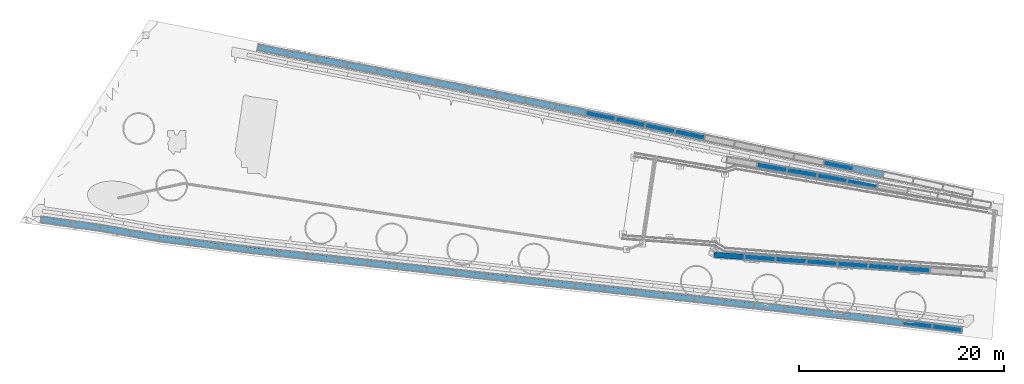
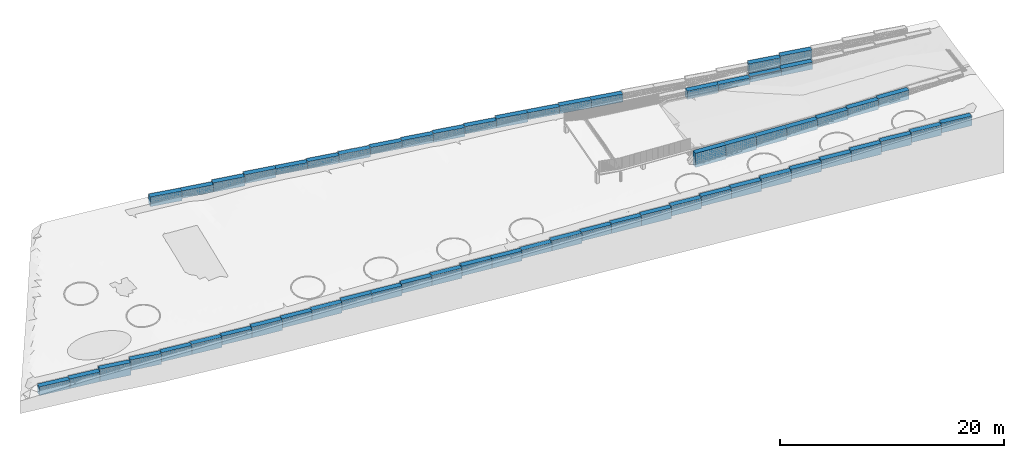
# Not in any storey, part 6 of 45: 59 walls.
"""IFC4 model written with IfcOpenShell, lengths in metres."""

import ifcopenshell
import ifcopenshell.guid

model = None  # the IFC model being written
_history = None  # IfcOwnerHistory: only IFC2X3 demands one
_inside = {}  # id of a spatial element -> (the spatial element, [elements in it])
_under = {}  # id of a project, library or spatial element -> (it, [spatial elements below it])
_declared = {}  # id of a project -> (the project, [libraries it declares])
_typed = {}  # id of a type object -> (the type object, [elements of that type])
_made_of = {}  # id of a material, layer set ... -> (it, [elements and type objects made of it])


def new_model(schema):
    """Start an empty IFC model of exactly this schema.

    Asked for "IFC4X3", IfcOpenShell would pick the latest addendum, in which some entities
    have other attributes; the version numbers below select the first issue.
    IFC2X3 requires an IfcOwnerHistory on every rooted entity: one is made here for all.
    """
    global model, _history
    if schema == "IFC4X3":
        model = ifcopenshell.file(schema_version=(4, 3, 0, 0))
    else:
        model = ifcopenshell.file(schema=schema)
    _inside.clear()
    _under.clear()
    _declared.clear()
    _typed.clear()
    _made_of.clear()
    _history = None
    if model.schema == "IFC2X3":
        org = make("IfcOrganization", Name="unknown")
        user = make(
            "IfcPersonAndOrganization",
            ThePerson=make("IfcPerson", FamilyName="unknown"),
            TheOrganization=org,
        )
        app = make(
            "IfcApplication",
            ApplicationDeveloper=org,
            Version="unknown",
            ApplicationFullName="unknown",
            ApplicationIdentifier="unknown",
        )
        _history = make(
            "IfcOwnerHistory",
            OwningUser=user,
            OwningApplication=app,
            ChangeAction="ADDED",
            CreationDate=0,
        )
    return model


def make(cls, **values):
    """One entity of the class cls with the attributes given. An attribute that is None is left unset."""
    return model.create_entity(
        cls, **{name: value for name, value in values.items() if value is not None}
    )


def rooted(cls, **values):
    """An entity with a GlobalId (a new one), such as an element, a storey or a relation."""
    return make(cls, GlobalId=ifcopenshell.guid.new(), OwnerHistory=_history, **values)


def si_unit(unit_type, name, prefix=None):
    """IfcSIUnit, for example si_unit("LENGTHUNIT", "METRE", prefix="MILLI")."""
    return make("IfcSIUnit", UnitType=unit_type, Prefix=prefix, Name=name)


def assignment(units):
    """IfcUnitAssignment: the units of a project."""
    return None if units is None else make("IfcUnitAssignment", Units=units)


def point(xyz):
    """IfcCartesianPoint."""
    return None if xyz is None else make("IfcCartesianPoint", Coordinates=xyz)


def direction(xyz):
    """IfcDirection."""
    return None if xyz is None else make("IfcDirection", DirectionRatios=xyz)


def frame(location, z_axis=None, x_axis=None):
    """IfcAxis2Placement3D, a coordinate frame: its origin and axes. An axis left out is left unset."""
    return make(
        "IfcAxis2Placement3D",
        Location=point(location),
        Axis=direction(z_axis),
        RefDirection=direction(x_axis),
    )


def origin_with_axes():
    """The frame at (0, 0, 0) with the z axis (0, 0, 1) and the x axis (1, 0, 0) written out."""
    return frame((0.0, 0.0, 0.0), z_axis=(0.0, 0.0, 1.0), x_axis=(1.0, 0.0, 0.0))


def place(relative_to, where):
    """IfcLocalPlacement: puts the frame where relative to a parent placement (None: the world)."""
    return make(
        "IfcLocalPlacement", PlacementRelTo=relative_to, RelativePlacement=where
    )


def context(
    kind, dimensions, precision=None, world=None, true_north=None, identifier=None
):
    """IfcGeometricRepresentationContext, for example the 3D "Model" context."""
    return make(
        "IfcGeometricRepresentationContext",
        ContextIdentifier=identifier,
        ContextType=kind,
        CoordinateSpaceDimension=dimensions,
        Precision=precision,
        WorldCoordinateSystem=world,
        TrueNorth=true_north,
    )


def subcontext(parent, identifier, kind, view, scale=None):
    """IfcGeometricRepresentationSubContext, for example "Body" below "Model"."""
    return make(
        "IfcGeometricRepresentationSubContext",
        ContextIdentifier=identifier,
        ContextType=kind,
        ParentContext=parent,
        TargetScale=scale,
        TargetView=view,
    )


def project(units=None, contexts=None):
    """IfcProject with its units and contexts."""
    return rooted(
        "IfcProject",
        Name="project",
        RepresentationContexts=contexts,
        UnitsInContext=assignment(units),
    )


def spatial(cls, under=None, at=None, **own):
    """A site, building, storey or space (cls), placed at a placement, below another one or the project."""
    s = rooted(cls, ObjectPlacement=at, **own)
    if under is not None:
        _under.setdefault(under.id(), (under, []))[1].append(s)
    return s


def polyline(points):
    """IfcPolyline through the points."""
    return make("IfcPolyline", Points=[point(p) for p in points])


def outline(outer, holes=None, kind="AREA"):
    """IfcArbitraryClosedProfileDef: a profile drawn as a closed curve; with holes, ...WithVoids."""
    if holes is None:
        return make("IfcArbitraryClosedProfileDef", ProfileType=kind, OuterCurve=outer)
    return make(
        "IfcArbitraryProfileDefWithVoids",
        ProfileType=kind,
        OuterCurve=outer,
        InnerCurves=holes,
    )


def extrude(swept, where, along, depth):
    """IfcExtrudedAreaSolid: the profile swept, set in the frame where, extruded along a direction by depth."""
    return make(
        "IfcExtrudedAreaSolid",
        SweptArea=swept,
        Position=where,
        ExtrudedDirection=direction(along),
        Depth=depth,
    )


def shape(context_of_items, identifier, shape_type, items):
    """IfcShapeRepresentation: the items that make up one representation, for example the "Body"."""
    return make(
        "IfcShapeRepresentation",
        ContextOfItems=context_of_items,
        RepresentationIdentifier=identifier,
        RepresentationType=shape_type,
        Items=items,
    )


def material(Name=None, Category=None):
    """IfcMaterial."""
    return make("IfcMaterial", Name=Name, Category=Category)


def made_of(thing, what):
    """Note that an element or type object is made of a material, layer set ...; save() writes the relation."""
    if what is not None:
        _made_of.setdefault(what.id(), (what, []))[1].append(thing)
    return thing


def element(
    cls,
    number,
    at=None,
    inside=None,
    cuts=None,
    type_object=None,
    material=None,
    context=None,
    identifier="Body",
    shape_type=None,
    held_by="IfcProductDefinitionShape",
    body=None,
    shapes=None,
    **own,
):
    """One element of the class cls, such as IfcWall. Its Tag is "e" and its number.

    at: its placement. inside: the storey or other place that contains it. cuts: it is an
    opening in that element (IfcRelVoidsElement). A single representation is given by context,
    identifier, shape_type and body (its items); several are given by shapes. held_by: the class
    of the entity that holds the representations. save() writes the other relations.
    """
    e = rooted(cls, Tag="e%d" % number, ObjectPlacement=at, **own)
    if body is not None:
        shapes = [shape(context, identifier, shape_type, body)]
    if shapes is not None:
        e.Representation = make(held_by, Representations=shapes)
    if inside is not None:
        _inside.setdefault(inside.id(), (inside, []))[1].append(e)
    if cuts is not None:
        rooted(
            "IfcRelVoidsElement", RelatingBuildingElement=cuts, RelatedOpeningElement=e
        )
    if type_object is not None:
        _typed.setdefault(type_object.id(), (type_object, []))[1].append(e)
    return made_of(e, material)


def aggregate(whole, parts):
    """IfcRelAggregates: a whole, such as a stair, and the parts it consists of."""
    return rooted("IfcRelAggregates", RelatingObject=whole, RelatedObjects=parts)


def save(model, path):
    """Write the relations noted so far, then the file.

    IfcRelAggregates (storeys below a building ...), IfcRelContainedInSpatialStructure (elements
    in a storey), IfcRelDefinesByType, IfcRelAssociatesMaterial and IfcRelDeclares: one each for
    every whole, place, type object, material and project.
    """
    for whole, parts in _under.values():
        aggregate(whole, parts)
    for where, things in _inside.values():
        rooted(
            "IfcRelContainedInSpatialStructure",
            RelatedElements=things,
            RelatingStructure=where,
        )
    for kind, things in _typed.values():
        rooted("IfcRelDefinesByType", RelatedObjects=things, RelatingType=kind)
    for what, things in _made_of.values():
        rooted("IfcRelAssociatesMaterial", RelatedObjects=things, RelatingMaterial=what)
    for by, libraries in _declared.values():
        rooted("IfcRelDeclares", RelatingContext=by, RelatedDefinitions=libraries)
    model.write(path)


model = new_model("IFC4")

# Units and contexts
model_context = context("Model", 3, precision=1e-05, world=origin_with_axes(), true_north=direction((0.0, 1.0)))
body_context = subcontext(model_context, "Body", "Model", "MODEL_VIEW")
ifc_project = project(units=[si_unit("VOLUMEUNIT", "CUBIC_METRE"), si_unit("LENGTHUNIT", "METRE"), si_unit("AREAUNIT", "SQUARE_METRE")], contexts=[model_context])

# Site
site_placement = place(None, origin_with_axes())
site = spatial("IfcSite", under=ifc_project, at=site_placement, Name="Lares · Rua das Mercês · artigo 4771")

# Walls
ifc_material = material(Name="Gabião · enchimento", Category="stone")
wall_1_placement = place(site_placement, frame((0.0, 0.0, 14.208446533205), z_axis=(0.0, 0.0, 1.0), x_axis=(1.0, -1.03767253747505e-17, 0.0)))
element("IfcWall", 1, at=wall_1_placement, inside=site, material=ifc_material, Name="Acesso · gabião -1 9.0 · núcleo de pedra", ObjectType="Acesso · gabião -1 9.0 · núcleo de pedra", PredefinedType="USERDEFINED", context=body_context, shape_type="SweptSolid", body=[
    extrude(outline(polyline([(58.5989442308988, 1.76800126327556), (58.560050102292, 1.23943031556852), (55.5438028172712, 1.46137650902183), (55.582696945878, 1.98994745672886), (58.5989442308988, 1.76800126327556)])), origin_with_axes(), (0.0, 0.0, 1.0), 1.52155346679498),
])
wall_2_placement = place(site_placement, frame((0.0, 0.0, 14.3332508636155), z_axis=(0.0, 0.0, 1.0), x_axis=(1.0, -1.03767253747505e-17, 0.0)))
element("IfcWall", 2, at=wall_2_placement, inside=site, material=ifc_material, Name="Acesso · gabião -1 12.0 · núcleo de pedra", ObjectType="Acesso · gabião -1 12.0 · núcleo de pedra", PredefinedType="USERDEFINED", context=body_context, shape_type="SweptSolid", body=[
    extrude(outline(polyline([(61.615470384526, 1.54603259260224), (61.5765759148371, 1.01746166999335), (58.5600499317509, 1.23943032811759), (58.5989444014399, 1.76800125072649), (61.615470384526, 1.54603259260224)])), origin_with_axes(), (0.0, 0.0, 1.0), 1.39974913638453),
])
wall_3_placement = place(site_placement, frame((0.0, 0.0, 14.5072433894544), z_axis=(0.0, 0.0, 1.0), x_axis=(1.0, -1.03767253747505e-17, 0.0)))
element("IfcWall", 3, at=wall_3_placement, inside=site, material=ifc_material, Name="Acesso · gabião -1 15.0 · núcleo de pedra", ObjectType="Acesso · gabião -1 15.0 · núcleo de pedra", PredefinedType="USERDEFINED", context=body_context, shape_type="SweptSolid", body=[
    extrude(outline(polyline([(64.6323114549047, 1.32404065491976), (64.5934169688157, 0.795469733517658), (61.576575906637, 1.01746167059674), (61.6154703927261, 1.54603259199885), (64.6323114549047, 1.32404065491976)])), origin_with_axes(), (0.0, 0.0, 1.0), 1.22875661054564),
])
wall_4_placement = place(site_placement, frame((0.0, 0.0, 14.6824201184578), z_axis=(0.0, 0.0, 1.0), x_axis=(1.0, -1.03767253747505e-17, 0.0)))
element("IfcWall", 4, at=wall_4_placement, inside=site, material=ifc_material, Name="Acesso · gabião -1 18.0 · núcleo de pedra", ObjectType="Acesso · gabião -1 18.0 · núcleo de pedra", PredefinedType="USERDEFINED", context=body_context, shape_type="SweptSolid", body=[
    extrude(outline(polyline([(67.6495103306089, 1.10202489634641), (67.6106162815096, 0.573453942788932), (64.5934171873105, 0.795469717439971), (64.6323112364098, 1.32404067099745), (67.6495103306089, 1.10202489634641)])), origin_with_axes(), (0.0, 0.0, 1.0), 1.05657988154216),
])
wall_5_placement = place(site_placement, frame((0.0, 0.0, 14.857617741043), z_axis=(0.0, 0.0, 1.0), x_axis=(1.0, -1.03767253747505e-17, 0.0)))
element("IfcWall", 5, at=wall_5_placement, inside=site, material=ifc_material, Name="Acesso · gabião -1 21.0 · núcleo de pedra", ObjectType="Acesso · gabião -1 21.0 · núcleo de pedra", PredefinedType="USERDEFINED", context=body_context, shape_type="SweptSolid", body=[
    extrude(outline(polyline([(70.6671179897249, 0.879985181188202), (70.6282250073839, 0.3514141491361), (67.6106168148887, 0.57345390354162), (67.6495097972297, 1.10202493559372), (70.6671179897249, 0.879985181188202)])), origin_with_axes(), (0.0, 0.0, 1.0), 1.00327284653),
])
wall_6_placement = place(site_placement, frame((0.0, 0.0, 15.0113961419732), z_axis=(0.0, 0.0, 1.0), x_axis=(1.0, -1.03767253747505e-17, 0.0)))
element("IfcWall", 6, at=wall_6_placement, inside=site, material=ifc_material, Name="Acesso · gabião -1 24.0 · núcleo de pedra", ObjectType="Acesso · gabião -1 24.0 · núcleo de pedra", PredefinedType="USERDEFINED", context=body_context, shape_type="SweptSolid", body=[
    extrude(outline(polyline([(73.6851954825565, 0.657922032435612), (73.6463044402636, 0.129350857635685), (70.628225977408, 0.351414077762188), (70.6671170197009, 0.879985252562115), (73.6851954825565, 0.657922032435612)])), origin_with_axes(), (0.0, 0.0, 1.0), 1.00195340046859),
])
wall_7_placement = place(site_placement, frame((0.0, 0.0, 15.2015590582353), z_axis=(0.0, 0.0, 1.0), x_axis=(1.0, -1.03767253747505e-17, 0.0)))
element("IfcWall", 7, at=wall_7_placement, inside=site, material=ifc_material, Name="Acesso · gabião -1 27.0 · núcleo de pedra", ObjectType="Acesso · gabião -1 27.0 · núcleo de pedra", PredefinedType="USERDEFINED", context=body_context, shape_type="SweptSolid", body=[
    extrude(outline(polyline([(76.7038165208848, 0.435836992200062), (76.6649286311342, -0.0927344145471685), (73.6463060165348, 0.129350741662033), (73.6851939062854, 0.657922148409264), (76.7038165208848, 0.435836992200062)])), origin_with_axes(), (0.0, 0.0, 1.0), 0.972611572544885),
])
wall_8_placement = place(site_placement, frame((0.0, 0.0, 14.8446376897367), z_axis=(0.0, 0.0, 1.0), x_axis=(1.0, -1.03767253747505e-17, 0.0)))
element("IfcWall", 8, at=wall_8_placement, inside=site, material=ifc_material, Name="Acesso · gabião 1 12.0 · núcleo de pedra", ObjectType="Acesso · gabião 1 12.0 · núcleo de pedra", PredefinedType="USERDEFINED", context=body_context, shape_type="SweptSolid", body=[
    extrude(outline(polyline([(62.7702319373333, 10.2266251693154), (62.6794950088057, 9.70445009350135), (59.7409139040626, 10.2150792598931), (59.8316508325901, 10.7372543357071), (62.7702319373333, 10.2266251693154)])), origin_with_axes(), (0.0, 0.0, 1.0), 0.888362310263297),
])
wall_9_placement = place(site_placement, frame((0.0, 0.0, 15.0670829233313), z_axis=(0.0, 0.0, 1.0), x_axis=(1.0, -1.03767253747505e-17, 0.0)))
element("IfcWall", 9, at=wall_9_placement, inside=site, material=ifc_material, Name="Acesso · gabião 1 15.0 · núcleo de pedra", ObjectType="Acesso · gabião 1 15.0 · núcleo de pedra", PredefinedType="USERDEFINED", context=body_context, shape_type="SweptSolid", body=[
    extrude(outline(polyline([(65.708500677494, 9.71601881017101), (65.6177583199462, 9.193844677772), (62.6794922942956, 9.70445056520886), (62.7702346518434, 10.2266246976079), (65.708500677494, 9.71601881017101)])), origin_with_axes(), (0.0, 0.0, 1.0), 0.670337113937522),
])
wall_10_placement = place(site_placement, frame((0.0, 0.0, 15.266), z_axis=(0.0, 0.0, 1.0), x_axis=(1.0, -1.03767253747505e-17, 0.0)))
element("IfcWall", 10, at=wall_10_placement, inside=site, material=ifc_material, Name="Acesso · gabião 1 18.0 · núcleo de pedra", ObjectType="Acesso · gabião 1 18.0 · núcleo de pedra", PredefinedType="USERDEFINED", context=body_context, shape_type="SweptSolid", body=[
    extrude(outline(polyline([(68.6464119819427, 9.20543618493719), (68.555663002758, 8.68326320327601), (65.6177550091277, 9.19384525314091), (65.7085039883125, 9.71601823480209), (68.6464119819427, 9.20543618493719)])), origin_with_axes(), (0.0, 0.0, 1.0), 0.598170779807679),
])
wall_11_placement = place(site_placement, frame((0.0, 0.0, 15.269), z_axis=(0.0, 0.0, 1.0), x_axis=(1.0, -1.03767253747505e-17, 0.0)))
element("IfcWall", 11, at=wall_11_placement, inside=site, material=ifc_material, Name="Acesso · gabião 1 21.0 · núcleo de pedra", ObjectType="Acesso · gabião 1 21.0 · núcleo de pedra", PredefinedType="USERDEFINED", context=body_context, shape_type="SweptSolid", body=[
    extrude(outline(polyline([(71.5839149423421, 8.69487740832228), (71.4931578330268, 8.17270583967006), (68.5556589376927, 8.68326390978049), (68.6464160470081, 9.20543547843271), (71.5839149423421, 8.69487740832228)])), origin_with_axes(), (0.0, 0.0, 1.0), 0.763511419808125),
])
wall_12_placement = place(site_placement, frame((0.0, 0.0, 13.25), z_axis=(0.0, 0.0, 1.0), x_axis=(1.0, -1.03767253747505e-17, 0.0)))
element("IfcWall", 12, at=wall_12_placement, inside=site, material=ifc_material, Name="Limite north · gabião 4 · núcleo de pedra", ObjectType="Limite north · gabião 4 · núcleo de pedra", PredefinedType="USERDEFINED", context=body_context, shape_type="SweptSolid", body=[
    extrude(outline(polyline([(13.9459810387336, 21.6283738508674), (14.0549092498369, 21.6074246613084), (13.954813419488, 21.0869625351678), (13.8442172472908, 21.1082325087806), (13.8408855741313, 21.1088954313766), (11.0468891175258, 21.6834743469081), (11.1536482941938, 22.2026106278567), (13.9459810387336, 21.6283738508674)])), origin_with_axes(), (0.0, 0.0, 1.0), 1.05),
])
wall_13_placement = place(site_placement, frame((0.0, 0.0, 13.5), z_axis=(0.0, 0.0, 1.0), x_axis=(1.0, -1.03767253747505e-17, 0.0)))
element("IfcWall", 13, at=wall_13_placement, inside=site, material=ifc_material, Name="Limite north · gabião 5 · núcleo de pedra", ObjectType="Limite north · gabião 5 · núcleo de pedra", PredefinedType="USERDEFINED", context=body_context, shape_type="SweptSolid", body=[
    extrude(outline(polyline([(16.9666375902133, 21.0474379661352), (16.8665417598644, 20.5269758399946), (13.954813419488, 21.0869625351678), (14.0549092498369, 21.6074246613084), (16.9666375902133, 21.0474379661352)])), origin_with_axes(), (0.0, 0.0, 1.0), 0.800000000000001),
])
wall_14_placement = place(site_placement, frame((0.0, 0.0, 13.5), z_axis=(0.0, 0.0, 1.0), x_axis=(1.0, -1.03767253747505e-17, 0.0)))
element("IfcWall", 14, at=wall_14_placement, inside=site, material=ifc_material, Name="Limite north · gabião 6 · núcleo de pedra", ObjectType="Limite north · gabião 6 · núcleo de pedra", PredefinedType="USERDEFINED", context=body_context, shape_type="SweptSolid", body=[
    extrude(outline(polyline([(19.8783659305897, 20.487451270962), (19.7782701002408, 19.9669891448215), (16.8665417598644, 20.5269758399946), (16.9666375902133, 21.0474379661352), (19.8783659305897, 20.487451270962)])), origin_with_axes(), (0.0, 0.0, 1.0), 1.0),
])
wall_15_placement = place(site_placement, frame((0.0, 0.0, 13.75), z_axis=(0.0, 0.0, 1.0), x_axis=(1.0, -1.03767253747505e-17, 0.0)))
element("IfcWall", 15, at=wall_15_placement, inside=site, material=ifc_material, Name="Limite north · gabião 7 · núcleo de pedra", ObjectType="Limite north · gabião 7 · núcleo de pedra", PredefinedType="USERDEFINED", context=body_context, shape_type="SweptSolid", body=[
    extrude(outline(polyline([(21.9983013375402, 20.0797430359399), (22.0008751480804, 20.0792348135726), (22.7911217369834, 19.9191251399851), (22.6858782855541, 19.3996794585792), (21.896917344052, 19.5595286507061), (19.7782701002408, 19.9669891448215), (19.8783659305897, 20.487451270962), (21.9983013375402, 20.0797430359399)])), origin_with_axes(), (0.0, 0.0, 1.0), 0.950000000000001),
])
wall_16_placement = place(site_placement, frame((0.0, 0.0, 14.0), z_axis=(0.0, 0.0, 1.0), x_axis=(1.0, -1.03767253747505e-17, 0.0)))
element("IfcWall", 16, at=wall_16_placement, inside=site, material=ifc_material, Name="Limite north · gabião 8 · núcleo de pedra", ObjectType="Limite north · gabião 8 · núcleo de pedra", PredefinedType="USERDEFINED", context=body_context, shape_type="SweptSolid", body=[
    extrude(outline(polyline([(25.6971635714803, 19.3303400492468), (25.5919201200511, 18.8108943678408), (22.6858782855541, 19.3996794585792), (22.7911217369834, 19.9191251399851), (25.6971635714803, 19.3303400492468)])), origin_with_axes(), (0.0, 0.0, 1.0), 0.700000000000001),
])
wall_17_placement = place(site_placement, frame((0.0, 0.0, 14.0), z_axis=(0.0, 0.0, 1.0), x_axis=(1.0, -1.03767253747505e-17, 0.0)))
element("IfcWall", 17, at=wall_17_placement, inside=site, material=ifc_material, Name="Limite north · gabião 9 · núcleo de pedra", ObjectType="Limite north · gabião 9 · núcleo de pedra", PredefinedType="USERDEFINED", context=body_context, shape_type="SweptSolid", body=[
    extrude(outline(polyline([(27.7595237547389, 18.9124909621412), (28.6029361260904, 18.7442291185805), (28.49924383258, 18.2244715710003), (27.6554435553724, 18.392810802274), (27.6546679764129, 18.3929667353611), (25.5919201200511, 18.8108943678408), (25.6971635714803, 19.3303400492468), (27.7595237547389, 18.9124909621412)])), origin_with_axes(), (0.0, 0.0, 1.0), 0.800000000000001),
])
wall_18_placement = place(site_placement, frame((0.0, 0.0, 14.0), z_axis=(0.0, 0.0, 1.0), x_axis=(1.0, -1.03767253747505e-17, 0.0)))
element("IfcWall", 18, at=wall_18_placement, inside=site, material=ifc_material, Name="Limite north · gabião 10 · núcleo de pedra", ObjectType="Limite north · gabião 10 · núcleo de pedra", PredefinedType="USERDEFINED", context=body_context, shape_type="SweptSolid", body=[
    extrude(outline(polyline([(31.5107226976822, 18.1641219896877), (31.4070304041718, 17.6443644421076), (28.49924383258, 18.2244715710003), (28.6029361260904, 18.7442291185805), (31.5107226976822, 18.1641219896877)])), origin_with_axes(), (0.0, 0.0, 1.0), 0.9),
])
wall_19_placement = place(site_placement, frame((0.0, 0.0, 14.25), z_axis=(0.0, 0.0, 1.0), x_axis=(1.0, -1.03767253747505e-17, 0.0)))
element("IfcWall", 19, at=wall_19_placement, inside=site, material=ifc_material, Name="Limite north · gabião 11 · núcleo de pedra", ObjectType="Limite north · gabião 11 · núcleo de pedra", PredefinedType="USERDEFINED", context=body_context, shape_type="SweptSolid", body=[
    extrude(outline(polyline([(34.418509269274, 17.584014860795), (34.3148169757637, 17.0642573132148), (31.4070304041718, 17.6443644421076), (31.5107226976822, 18.1641219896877), (34.418509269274, 17.584014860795)])), origin_with_axes(), (0.0, 0.0, 1.0), 0.75),
])
wall_20_placement = place(site_placement, frame((0.0, 0.0, 14.25), z_axis=(0.0, 0.0, 1.0), x_axis=(1.0, -1.03767253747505e-17, 0.0)))
element("IfcWall", 20, at=wall_20_placement, inside=site, material=ifc_material, Name="Limite north · gabião 12 · núcleo de pedra", ObjectType="Limite north · gabião 12 · núcleo de pedra", PredefinedType="USERDEFINED", context=body_context, shape_type="SweptSolid", body=[
    extrude(outline(polyline([(36.5810808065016, 17.1525790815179), (36.5823908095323, 17.152314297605), (37.326846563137, 16.9998864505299), (37.2205342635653, 16.4806584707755), (36.476733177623, 16.6329522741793), (34.3148169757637, 17.0642573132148), (34.418509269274, 17.584014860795), (36.5810808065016, 17.1525790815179)])), origin_with_axes(), (0.0, 0.0, 1.0), 0.850000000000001),
])
wall_21_placement = place(site_placement, frame((0.0, 0.0, 14.25), z_axis=(0.0, 0.0, 1.0), x_axis=(1.0, -1.03767253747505e-17, 0.0)))
element("IfcWall", 21, at=wall_21_placement, inside=site, material=ifc_material, Name="Limite north · gabião 13 · núcleo de pedra", ObjectType="Limite north · gabião 13 · núcleo de pedra", PredefinedType="USERDEFINED", context=body_context, shape_type="SweptSolid", body=[
    extrude(outline(polyline([(40.2316704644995, 16.4051216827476), (40.1253581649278, 15.8858937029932), (37.2205342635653, 16.4806584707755), (37.326846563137, 16.9998864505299), (40.2316704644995, 16.4051216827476)])), origin_with_axes(), (0.0, 0.0, 1.0), 0.950000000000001),
])
wall_22_placement = place(site_placement, frame((0.0, 0.0, 14.5), z_axis=(0.0, 0.0, 1.0), x_axis=(1.0, -1.03767253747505e-17, 0.0)))
element("IfcWall", 22, at=wall_22_placement, inside=site, material=ifc_material, Name="Limite north · gabião 14 · núcleo de pedra", ObjectType="Limite north · gabião 14 · núcleo de pedra", PredefinedType="USERDEFINED", context=body_context, shape_type="SweptSolid", body=[
    extrude(outline(polyline([(43.136494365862, 15.8103569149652), (43.0301820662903, 15.2911289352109), (40.1253581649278, 15.8858937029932), (40.2316704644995, 16.4051216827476), (43.136494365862, 15.8103569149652)])), origin_with_axes(), (0.0, 0.0, 1.0), 0.800000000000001),
])
wall_23_placement = place(site_placement, frame((0.0, 0.0, 14.5), z_axis=(0.0, 0.0, 1.0), x_axis=(1.0, -1.03767253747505e-17, 0.0)))
element("IfcWall", 23, at=wall_23_placement, inside=site, material=ifc_material, Name="Limite north · gabião 15 · núcleo de pedra", ObjectType="Limite north · gabião 15 · núcleo de pedra", PredefinedType="USERDEFINED", context=body_context, shape_type="SweptSolid", body=[
    extrude(outline(polyline([(46.0413182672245, 15.2155921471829), (45.9350059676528, 14.6963641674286), (43.0301820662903, 15.2911289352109), (43.136494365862, 15.8103569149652), (46.0413182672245, 15.2155921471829)])), origin_with_axes(), (0.0, 0.0, 1.0), 1.0),
])
wall_24_placement = place(site_placement, frame((0.0, 0.0, 14.75), z_axis=(0.0, 0.0, 1.0), x_axis=(1.0, -1.03767253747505e-17, 0.0)))
element("IfcWall", 24, at=wall_24_placement, inside=site, material=ifc_material, Name="Limite north · gabião 16 · núcleo de pedra", ObjectType="Limite north · gabião 16 · núcleo de pedra", PredefinedType="USERDEFINED", context=body_context, shape_type="SweptSolid", body=[
    extrude(outline(polyline([(46.0688101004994, 15.2099631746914), (46.0700833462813, 15.2096992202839), (48.9444899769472, 14.6064518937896), (48.8356311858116, 14.0877518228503), (45.9618608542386, 14.6908656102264), (45.9350059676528, 14.6963641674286), (46.0413182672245, 15.2155921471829), (46.0688101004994, 15.2099631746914)])), origin_with_axes(), (0.0, 0.0, 1.0), 0.75),
])
wall_25_placement = place(site_placement, frame((0.0, 0.0, 14.75), z_axis=(0.0, 0.0, 1.0), x_axis=(1.0, -1.03767253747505e-17, 0.0)))
element("IfcWall", 25, at=wall_25_placement, inside=site, material=ifc_material, Name="Limite north · gabião 17 · núcleo de pedra", ObjectType="Limite north · gabião 17 · núcleo de pedra", PredefinedType="USERDEFINED", context=body_context, shape_type="SweptSolid", body=[
    extrude(outline(polyline([(51.846360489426, 13.9974407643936), (51.7375016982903, 13.4787406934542), (48.8356311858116, 14.0877518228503), (48.9444899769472, 14.6064518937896), (51.846360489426, 13.9974407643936)])), origin_with_axes(), (0.0, 0.0, 1.0), 0.850000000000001),
])
wall_26_placement = place(site_placement, frame((0.0, 0.0, 14.75), z_axis=(0.0, 0.0, 1.0), x_axis=(1.0, -1.03767253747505e-17, 0.0)))
element("IfcWall", 26, at=wall_26_placement, inside=site, material=ifc_material, Name="Limite north · gabião 18 · núcleo de pedra", ObjectType="Limite north · gabião 18 · núcleo de pedra", PredefinedType="USERDEFINED", context=body_context, shape_type="SweptSolid", body=[
    extrude(outline(polyline([(54.7482310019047, 13.3884296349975), (54.6393722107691, 12.8697295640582), (51.7375016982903, 13.4787406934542), (51.846360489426, 13.9974407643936), (54.7482310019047, 13.3884296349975)])), origin_with_axes(), (0.0, 0.0, 1.0), 0.850000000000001),
])
wall_27_placement = place(site_placement, frame((0.0, 0.0, 15.25), z_axis=(0.0, 0.0, 1.0), x_axis=(1.0, -1.03767253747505e-17, 0.0)))
element("IfcWall", 27, at=wall_27_placement, inside=site, material=ifc_material, Name="Limite north · gabião 23 · núcleo de pedra", ObjectType="Limite north · gabião 23 · núcleo de pedra", PredefinedType="USERDEFINED", context=body_context, shape_type="SweptSolid", body=[
    extrude(outline(polyline([(69.2593457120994, 10.3625658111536), (69.1545580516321, 9.84302799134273), (66.2480007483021, 10.4292631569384), (66.3527884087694, 10.9488009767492), (69.2593457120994, 10.3625658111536)])), origin_with_axes(), (0.0, 0.0, 1.0), 1.05),
])
wall_28_placement = place(site_placement, frame((0.0, 0.0, 15.5), z_axis=(0.0, 0.0, 1.0), x_axis=(1.0, -1.03767253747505e-17, 0.0)))
element("IfcWall", 28, at=wall_28_placement, inside=site, material=ifc_material, Name="Limite north · gabião 24 · núcleo de pedra", ObjectType="Limite north · gabião 24 · núcleo de pedra", PredefinedType="USERDEFINED", context=body_context, shape_type="SweptSolid", body=[
    extrude(outline(polyline([(72.1659030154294, 9.77633064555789), (72.0611153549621, 9.25679282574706), (69.1545580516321, 9.84302799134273), (69.2593457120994, 10.3625658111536), (72.1659030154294, 9.77633064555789)])), origin_with_axes(), (0.0, 0.0, 1.0), 1.0),
])
wall_29_placement = place(site_placement, frame((0.0, 0.0, 10.25), z_axis=(0.0, 0.0, 1.0), x_axis=(1.0, -1.03767253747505e-17, 0.0)))
element("IfcWall", 29, at=wall_29_placement, inside=site, material=ifc_material, Name="Limite south · gabião 1 · núcleo de pedra", ObjectType="Limite south · gabião 1 · núcleo de pedra", PredefinedType="USERDEFINED", context=body_context, shape_type="SweptSolid", body=[
    extrude(outline(polyline([(-7.12131503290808, 5.00047159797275), (-7.19516742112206, 4.4756422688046), (-10.0859988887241, 4.88243128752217), (-10.0121465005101, 5.40726061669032), (-7.12131503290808, 5.00047159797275)])), origin_with_axes(), (0.0, 0.0, 1.0), 0.950000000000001),
])
wall_30_placement = place(site_placement, frame((0.0, 0.0, 10.25), z_axis=(0.0, 0.0, 1.0), x_axis=(1.0, -1.03767253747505e-17, 0.0)))
element("IfcWall", 30, at=wall_30_placement, inside=site, material=ifc_material, Name="Limite south · gabião 2 · núcleo de pedra", ObjectType="Limite south · gabião 2 · núcleo de pedra", PredefinedType="USERDEFINED", context=body_context, shape_type="SweptSolid", body=[
    extrude(outline(polyline([(-4.23048356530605, 4.59368257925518), (-4.30433595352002, 4.06885325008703), (-7.19516742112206, 4.4756422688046), (-7.12131503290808, 5.00047159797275), (-4.23048356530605, 4.59368257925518)])), origin_with_axes(), (0.0, 0.0, 1.0), 1.05),
])
wall_31_placement = place(site_placement, frame((0.0, 0.0, 10.25), z_axis=(0.0, 0.0, 1.0), x_axis=(1.0, -1.03767253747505e-17, 0.0)))
element("IfcWall", 31, at=wall_31_placement, inside=site, material=ifc_material, Name="Limite south · gabião 3 · núcleo de pedra", ObjectType="Limite south · gabião 3 · núcleo de pedra", PredefinedType="USERDEFINED", context=body_context, shape_type="SweptSolid", body=[
    extrude(outline(polyline([(-4.13330984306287, 4.58000858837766), (-4.12415688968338, 4.57855697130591), (-1.34595301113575, 4.08799990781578), (-1.43811130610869, 3.56607381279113), (-4.21175140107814, 4.0558250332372), (-4.30433595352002, 4.06885325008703), (-4.23048356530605, 4.59368257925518), (-4.13330984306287, 4.58000858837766)])), origin_with_axes(), (0.0, 0.0, 1.0), 1.35),
])
wall_32_placement = place(site_placement, frame((0.0, 0.0, 10.75), z_axis=(0.0, 0.0, 1.0), x_axis=(1.0, -1.03767253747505e-17, 0.0)))
element("IfcWall", 32, at=wall_32_placement, inside=site, material=ifc_material, Name="Limite south · gabião 4 · núcleo de pedra", ObjectType="Limite south · gabião 4 · núcleo de pedra", PredefinedType="USERDEFINED", context=body_context, shape_type="SweptSolid", body=[
    extrude(outline(polyline([(1.52888704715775, 3.58037945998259), (1.43672875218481, 3.05845336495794), (-1.43811130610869, 3.56607381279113), (-1.34595301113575, 4.08799990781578), (1.52888704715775, 3.58037945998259)])), origin_with_axes(), (0.0, 0.0, 1.0), 1.15),
])
wall_33_placement = place(site_placement, frame((0.0, 0.0, 11.0), z_axis=(0.0, 0.0, 1.0), x_axis=(1.0, -1.03767253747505e-17, 0.0)))
element("IfcWall", 33, at=wall_33_placement, inside=site, material=ifc_material, Name="Limite south · gabião 5 · núcleo de pedra", ObjectType="Limite south · gabião 5 · núcleo de pedra", PredefinedType="USERDEFINED", context=body_context, shape_type="SweptSolid", body=[
    extrude(outline(polyline([(1.58401702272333, 3.57064496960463), (4.41182804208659, 3.21260346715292), (4.34525393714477, 2.68680132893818), (1.51102320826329, 3.04565565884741), (1.49823111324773, 3.04759368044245), (1.43672875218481, 3.05845336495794), (1.52888704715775, 3.58037945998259), (1.58401702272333, 3.57064496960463)])), origin_with_axes(), (0.0, 0.0, 1.0), 1.0),
])
wall_34_placement = place(site_placement, frame((0.0, 0.0, 11.0), z_axis=(0.0, 0.0, 1.0), x_axis=(1.0, -1.03767253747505e-17, 0.0)))
element("IfcWall", 34, at=wall_34_placement, inside=site, material=ifc_material, Name="Limite south · gabião 6 · núcleo de pedra", ObjectType="Limite south · gabião 6 · núcleo de pedra", PredefinedType="USERDEFINED", context=body_context, shape_type="SweptSolid", body=[
    extrude(outline(polyline([(7.30801787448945, 2.8459042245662), (7.24144376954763, 2.32010208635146), (4.34525393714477, 2.68680132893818), (4.41182804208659, 3.21260346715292), (7.30801787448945, 2.8459042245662)])), origin_with_axes(), (0.0, 0.0, 1.0), 1.1),
])
wall_35_placement = place(site_placement, frame((0.0, 0.0, 11.25), z_axis=(0.0, 0.0, 1.0), x_axis=(1.0, -1.03767253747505e-17, 0.0)))
element("IfcWall", 35, at=wall_35_placement, inside=site, material=ifc_material, Name="Limite south · gabião 7 · núcleo de pedra", ObjectType="Limite south · gabião 7 · núcleo de pedra", PredefinedType="USERDEFINED", context=body_context, shape_type="SweptSolid", body=[
    extrude(outline(polyline([(10.2042077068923, 2.47920498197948), (10.1376336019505, 1.95340284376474), (7.24144376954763, 2.32010208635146), (7.30801787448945, 2.8459042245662), (10.2042077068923, 2.47920498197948)])), origin_with_axes(), (0.0, 0.0, 1.0), 0.950000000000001),
])
wall_36_placement = place(site_placement, frame((0.0, 0.0, 11.25), z_axis=(0.0, 0.0, 1.0), x_axis=(1.0, -1.03767253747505e-17, 0.0)))
element("IfcWall", 36, at=wall_36_placement, inside=site, material=ifc_material, Name="Limite south · gabião 8 · núcleo de pedra", ObjectType="Limite south · gabião 8 · núcleo de pedra", PredefinedType="USERDEFINED", context=body_context, shape_type="SweptSolid", body=[
    extrude(outline(polyline([(11.1435488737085, 2.36027089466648), (13.0998900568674, 2.14458601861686), (13.0418099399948, 1.61777798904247), (11.0833432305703, 1.83369720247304), (11.0790962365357, 1.83420014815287), (10.1376336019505, 1.95340284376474), (10.2042077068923, 2.47920498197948), (11.1435488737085, 2.36027089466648)])), origin_with_axes(), (0.0, 0.0, 1.0), 1.15),
])
wall_37_placement = place(site_placement, frame((0.0, 0.0, 11.5), z_axis=(0.0, 0.0, 1.0), x_axis=(1.0, -1.03767253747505e-17, 0.0)))
element("IfcWall", 37, at=wall_37_placement, inside=site, material=ifc_material, Name="Limite south · gabião 9 · núcleo de pedra", ObjectType="Limite south · gabião 9 · núcleo de pedra", PredefinedType="USERDEFINED", context=body_context, shape_type="SweptSolid", body=[
    extrude(outline(polyline([(16.0016204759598, 1.82467281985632), (15.9435403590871, 1.29786479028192), (13.0418099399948, 1.61777798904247), (13.0998900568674, 2.14458601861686), (16.0016204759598, 1.82467281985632)])), origin_with_axes(), (0.0, 0.0, 1.0), 1.0),
])
wall_38_placement = place(site_placement, frame((0.0, 0.0, 11.5), z_axis=(0.0, 0.0, 1.0), x_axis=(1.0, -1.03767253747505e-17, 0.0)))
element("IfcWall", 38, at=wall_38_placement, inside=site, material=ifc_material, Name="Limite south · gabião 10 · núcleo de pedra", ObjectType="Limite south · gabião 10 · núcleo de pedra", PredefinedType="USERDEFINED", context=body_context, shape_type="SweptSolid", body=[
    extrude(outline(polyline([(18.9033508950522, 1.50475962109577), (18.8452707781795, 0.97795159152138), (15.9435403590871, 1.29786479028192), (16.0016204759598, 1.82467281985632), (18.9033508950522, 1.50475962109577)])), origin_with_axes(), (0.0, 0.0, 1.0), 1.1),
])
wall_39_placement = place(site_placement, frame((0.0, 0.0, 11.75), z_axis=(0.0, 0.0, 1.0), x_axis=(1.0, -1.03767253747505e-17, 0.0)))
element("IfcWall", 39, at=wall_39_placement, inside=site, material=ifc_material, Name="Limite south · gabião 11 · núcleo de pedra", ObjectType="Limite south · gabião 11 · núcleo de pedra", PredefinedType="USERDEFINED", context=body_context, shape_type="SweptSolid", body=[
    extrude(outline(polyline([(21.8050813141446, 1.18484642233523), (21.7470011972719, 0.658038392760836), (18.8452707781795, 0.97795159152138), (18.9033508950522, 1.50475962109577), (21.8050813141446, 1.18484642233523)])), origin_with_axes(), (0.0, 0.0, 1.0), 1.05),
])
wall_40_placement = place(site_placement, frame((0.0, 0.0, 11.75), z_axis=(0.0, 0.0, 1.0), x_axis=(1.0, -1.03767253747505e-17, 0.0)))
element("IfcWall", 40, at=wall_40_placement, inside=site, material=ifc_material, Name="Limite south · gabião 12 · núcleo de pedra", ObjectType="Limite south · gabião 12 · núcleo de pedra", PredefinedType="USERDEFINED", context=body_context, shape_type="SweptSolid", body=[
    extrude(outline(polyline([(23.5374462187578, 0.993854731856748), (23.5377683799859, 0.993819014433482), (24.7069753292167, 0.863467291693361), (24.6482508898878, 0.336730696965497), (23.4792050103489, 0.467064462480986), (21.7470011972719, 0.658038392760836), (21.8050813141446, 1.18484642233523), (23.5374462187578, 0.993854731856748)])), origin_with_axes(), (0.0, 0.0, 1.0), 1.05),
])
wall_41_placement = place(site_placement, frame((0.0, 0.0, 12.0), z_axis=(0.0, 0.0, 1.0), x_axis=(1.0, -1.03767253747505e-17, 0.0)))
element("IfcWall", 41, at=wall_41_placement, inside=site, material=ifc_material, Name="Limite south · gabião 13 · núcleo de pedra", ObjectType="Limite south · gabião 13 · núcleo de pedra", PredefinedType="USERDEFINED", context=body_context, shape_type="SweptSolid", body=[
    extrude(outline(polyline([(27.6083122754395, 0.540005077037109), (27.5495878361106, 0.0132684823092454), (24.6482508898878, 0.336730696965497), (24.7069753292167, 0.863467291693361), (27.6083122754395, 0.540005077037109)])), origin_with_axes(), (0.0, 0.0, 1.0), 1.0),
])
wall_42_placement = place(site_placement, frame((0.0, 0.0, 12.0), z_axis=(0.0, 0.0, 1.0), x_axis=(1.0, -1.03767253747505e-17, 0.0)))
element("IfcWall", 42, at=wall_42_placement, inside=site, material=ifc_material, Name="Limite south · gabião 14 · núcleo de pedra", ObjectType="Limite south · gabião 14 · núcleo de pedra", PredefinedType="USERDEFINED", context=body_context, shape_type="SweptSolid", body=[
    extrude(outline(polyline([(30.5096492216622, 0.216542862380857), (30.4509247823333, -0.310193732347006), (27.5495878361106, 0.0132684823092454), (27.6083122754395, 0.540005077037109), (30.5096492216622, 0.216542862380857)])), origin_with_axes(), (0.0, 0.0, 1.0), 1.1),
])
wall_43_placement = place(site_placement, frame((0.0, 0.0, 12.25), z_axis=(0.0, 0.0, 1.0), x_axis=(1.0, -1.03767253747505e-17, 0.0)))
element("IfcWall", 43, at=wall_43_placement, inside=site, material=ifc_material, Name="Limite south · gabião 15 · núcleo de pedra", ObjectType="Limite south · gabião 15 · núcleo de pedra", PredefinedType="USERDEFINED", context=body_context, shape_type="SweptSolid", body=[
    extrude(outline(polyline([(33.4109861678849, -0.106919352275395), (33.352261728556, -0.633655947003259), (30.4509247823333, -0.310193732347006), (30.5096492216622, 0.216542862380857), (33.4109861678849, -0.106919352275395)])), origin_with_axes(), (0.0, 0.0, 1.0), 1.05),
])
wall_44_placement = place(site_placement, frame((0.0, 0.0, 12.25), z_axis=(0.0, 0.0, 1.0), x_axis=(1.0, -1.03767253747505e-17, 0.0)))
element("IfcWall", 44, at=wall_44_placement, inside=site, material=ifc_material, Name="Limite south · gabião 16 · núcleo de pedra", ObjectType="Limite south · gabião 16 · núcleo de pedra", PredefinedType="USERDEFINED", context=body_context, shape_type="SweptSolid", body=[
    extrude(outline(polyline([(35.2033407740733, -0.306744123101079), (36.3117755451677, -0.425994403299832), (36.2550829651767, -0.952953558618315), (35.1461401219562, -0.833648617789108), (35.1451241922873, -0.833537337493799), (33.352261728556, -0.633655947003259), (33.4109861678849, -0.106919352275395), (35.2033407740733, -0.306744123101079)])), origin_with_axes(), (0.0, 0.0, 1.0), 1.05),
])
wall_45_placement = place(site_placement, frame((0.0, 0.0, 12.5), z_axis=(0.0, 0.0, 1.0), x_axis=(1.0, -1.03767253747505e-17, 0.0)))
element("IfcWall", 45, at=wall_45_placement, inside=site, material=ifc_material, Name="Limite south · gabião 17 · núcleo de pedra", ObjectType="Limite south · gabião 17 · núcleo de pedra", PredefinedType="USERDEFINED", context=body_context, shape_type="SweptSolid", body=[
    extrude(outline(polyline([(39.2143383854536, -0.738264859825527), (39.1576458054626, -1.26522401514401), (36.2550829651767, -0.952953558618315), (36.3117755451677, -0.425994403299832), (39.2143383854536, -0.738264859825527)])), origin_with_axes(), (0.0, 0.0, 1.0), 0.9),
])
wall_46_placement = place(site_placement, frame((0.0, 0.0, 12.5), z_axis=(0.0, 0.0, 1.0), x_axis=(1.0, -1.03767253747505e-17, 0.0)))
element("IfcWall", 46, at=wall_46_placement, inside=site, material=ifc_material, Name="Limite south · gabião 18 · núcleo de pedra", ObjectType="Limite south · gabião 18 · núcleo de pedra", PredefinedType="USERDEFINED", context=body_context, shape_type="SweptSolid", body=[
    extrude(outline(polyline([(42.1169012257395, -1.05053531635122), (42.0602086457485, -1.5774944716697), (39.1576458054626, -1.26522401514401), (39.2143383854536, -0.738264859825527), (42.1169012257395, -1.05053531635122)])), origin_with_axes(), (0.0, 0.0, 1.0), 1.1),
])
wall_47_placement = place(site_placement, frame((0.0, 0.0, 12.75), z_axis=(0.0, 0.0, 1.0), x_axis=(1.0, -1.03767253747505e-17, 0.0)))
element("IfcWall", 47, at=wall_47_placement, inside=site, material=ifc_material, Name="Limite south · gabião 19 · núcleo de pedra", ObjectType="Limite south · gabião 19 · núcleo de pedra", PredefinedType="USERDEFINED", context=body_context, shape_type="SweptSolid", body=[
    extrude(outline(polyline([(45.0194640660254, -1.36280577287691), (44.9627714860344, -1.8897649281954), (42.0602086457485, -1.5774944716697), (42.1169012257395, -1.05053531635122), (45.0194640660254, -1.36280577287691)])), origin_with_axes(), (0.0, 0.0, 1.0), 0.950000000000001),
])
wall_48_placement = place(site_placement, frame((0.0, 0.0, 12.75), z_axis=(0.0, 0.0, 1.0), x_axis=(1.0, -1.03767253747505e-17, 0.0)))
element("IfcWall", 48, at=wall_48_placement, inside=site, material=ifc_material, Name="Limite south · gabião 20 · núcleo de pedra", ObjectType="Limite south · gabião 20 · núcleo de pedra", PredefinedType="USERDEFINED", context=body_context, shape_type="SweptSolid", body=[
    extrude(outline(polyline([(47.2063111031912, -1.59807638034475), (47.2072099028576, -1.59817462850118), (47.9226588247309, -1.67761597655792), (47.8641686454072, -2.20437863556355), (47.1491690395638, -2.12498717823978), (44.9627714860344, -1.8897649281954), (45.0194640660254, -1.36280577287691), (47.2063111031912, -1.59807638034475)])), origin_with_axes(), (0.0, 0.0, 1.0), 1.05),
])
wall_49_placement = place(site_placement, frame((0.0, 0.0, 12.75), z_axis=(0.0, 0.0, 1.0), x_axis=(1.0, -1.03767253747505e-17, 0.0)))
element("IfcWall", 49, at=wall_49_placement, inside=site, material=ifc_material, Name="Limite south · gabião 21 · núcleo de pedra", ObjectType="Limite south · gabião 21 · núcleo de pedra", PredefinedType="USERDEFINED", context=body_context, shape_type="SweptSolid", body=[
    extrude(outline(polyline([(50.8241393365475, -1.99978785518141), (50.7656491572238, -2.52655051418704), (47.8641686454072, -2.20437863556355), (47.9226588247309, -1.67761597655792), (50.8241393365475, -1.99978785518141)])), origin_with_axes(), (0.0, 0.0, 1.0), 1.15),
])
wall_50_placement = place(site_placement, frame((0.0, 0.0, 13.0), z_axis=(0.0, 0.0, 1.0), x_axis=(1.0, -1.03767253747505e-17, 0.0)))
element("IfcWall", 50, at=wall_50_placement, inside=site, material=ifc_material, Name="Limite south · gabião 22 · núcleo de pedra", ObjectType="Limite south · gabião 22 · núcleo de pedra", PredefinedType="USERDEFINED", context=body_context, shape_type="SweptSolid", body=[
    extrude(outline(polyline([(53.7256198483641, -2.3219597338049), (53.6671296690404, -2.84872239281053), (50.7656491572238, -2.52655051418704), (50.8241393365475, -1.99978785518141), (53.7256198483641, -2.3219597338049)])), origin_with_axes(), (0.0, 0.0, 1.0), 1.1),
])
wall_51_placement = place(site_placement, frame((0.0, 0.0, 13.25), z_axis=(0.0, 0.0, 1.0), x_axis=(1.0, -1.03767253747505e-17, 0.0)))
element("IfcWall", 51, at=wall_51_placement, inside=site, material=ifc_material, Name="Limite south · gabião 23 · núcleo de pedra", ObjectType="Limite south · gabião 23 · núcleo de pedra", PredefinedType="USERDEFINED", context=body_context, shape_type="SweptSolid", body=[
    extrude(outline(polyline([(56.6271003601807, -2.64413161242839), (56.568610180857, -3.17089427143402), (53.6671296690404, -2.84872239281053), (53.7256198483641, -2.3219597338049), (56.6271003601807, -2.64413161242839)])), origin_with_axes(), (0.0, 0.0, 1.0), 1.05),
])
wall_52_placement = place(site_placement, frame((0.0, 0.0, 13.25), z_axis=(0.0, 0.0, 1.0), x_axis=(1.0, -1.03767253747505e-17, 0.0)))
element("IfcWall", 52, at=wall_52_placement, inside=site, material=ifc_material, Name="Limite south · gabião 24 · núcleo de pedra", ObjectType="Limite south · gabião 24 · núcleo de pedra", PredefinedType="USERDEFINED", context=body_context, shape_type="SweptSolid", body=[
    extrude(outline(polyline([(59.3633613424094, -2.94795799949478), (59.3640539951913, -2.94803583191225), (59.5292247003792, -2.96681582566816), (59.4693492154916, -3.49342281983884), (59.3045247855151, -3.47468219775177), (56.568610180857, -3.17089427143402), (56.6271003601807, -2.64413161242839), (59.3633613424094, -2.94795799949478)])), origin_with_axes(), (0.0, 0.0, 1.0), 1.15),
])
wall_53_placement = place(site_placement, frame((0.0, 0.0, 13.5), z_axis=(0.0, 0.0, 1.0), x_axis=(1.0, -1.03767253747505e-17, 0.0)))
element("IfcWall", 53, at=wall_53_placement, inside=site, material=ifc_material, Name="Limite south · gabião 25 · núcleo de pedra", ObjectType="Limite south · gabião 25 · núcleo de pedra", PredefinedType="USERDEFINED", context=body_context, shape_type="SweptSolid", body=[
    extrude(outline(polyline([(62.4298477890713, -3.29661815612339), (62.3699723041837, -3.82322515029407), (59.4693492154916, -3.49342281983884), (59.5292247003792, -2.96681582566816), (62.4298477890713, -3.29661815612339)])), origin_with_axes(), (0.0, 0.0, 1.0), 1.1),
])
wall_54_placement = place(site_placement, frame((0.0, 0.0, 13.75), z_axis=(0.0, 0.0, 1.0), x_axis=(1.0, -1.03767253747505e-17, 0.0)))
element("IfcWall", 54, at=wall_54_placement, inside=site, material=ifc_material, Name="Limite south · gabião 26 · núcleo de pedra", ObjectType="Limite south · gabião 26 · núcleo de pedra", PredefinedType="USERDEFINED", context=body_context, shape_type="SweptSolid", body=[
    extrude(outline(polyline([(65.3304708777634, -3.62642048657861), (65.2705953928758, -4.15302748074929), (62.3699723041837, -3.82322515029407), (62.4298477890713, -3.29661815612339), (65.3304708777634, -3.62642048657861)])), origin_with_axes(), (0.0, 0.0, 1.0), 1.05),
])
wall_55_placement = place(site_placement, frame((0.0, 0.0, 14.0), z_axis=(0.0, 0.0, 1.0), x_axis=(1.0, -1.03767253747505e-17, 0.0)))
element("IfcWall", 55, at=wall_55_placement, inside=site, material=ifc_material, Name="Limite south · gabião 27 · núcleo de pedra", ObjectType="Limite south · gabião 27 · núcleo de pedra", PredefinedType="USERDEFINED", context=body_context, shape_type="SweptSolid", body=[
    extrude(outline(polyline([(68.2310939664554, -3.95622281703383), (68.1712184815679, -4.48282981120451), (65.2705953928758, -4.15302748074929), (65.3304708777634, -3.62642048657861), (68.2310939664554, -3.95622281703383)])), origin_with_axes(), (0.0, 0.0, 1.0), 1.0),
])
wall_56_placement = place(site_placement, frame((0.0, 0.0, 14.0), z_axis=(0.0, 0.0, 1.0), x_axis=(1.0, -1.03767253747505e-17, 0.0)))
element("IfcWall", 56, at=wall_56_placement, inside=site, material=ifc_material, Name="Limite south · gabião 28 · núcleo de pedra", ObjectType="Limite south · gabião 28 · núcleo de pedra", PredefinedType="USERDEFINED", context=body_context, shape_type="SweptSolid", body=[
    extrude(outline(polyline([(71.1317170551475, -4.28602514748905), (71.07184157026, -4.81263214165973), (68.1712184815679, -4.48282981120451), (68.2310939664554, -3.95622281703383), (71.1317170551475, -4.28602514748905)])), origin_with_axes(), (0.0, 0.0, 1.0), 1.2),
])
wall_57_placement = place(site_placement, frame((0.0, 0.0, 14.25), z_axis=(0.0, 0.0, 1.0), x_axis=(1.0, -1.03767253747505e-17, 0.0)))
element("IfcWall", 57, at=wall_57_placement, inside=site, material=ifc_material, Name="Limite south · gabião 29 · núcleo de pedra", ObjectType="Limite south · gabião 29 · núcleo de pedra", PredefinedType="USERDEFINED", context=body_context, shape_type="SweptSolid", body=[
    extrude(outline(polyline([(71.3785279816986, -4.31408767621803), (71.3816626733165, -4.31446301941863), (74.0316917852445, -4.64779709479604), (73.9655469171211, -5.17365340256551), (71.3170840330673, -4.84051633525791), (71.07184157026, -4.81263214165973), (71.1317170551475, -4.28602514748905), (71.3785279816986, -4.31408767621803)])), origin_with_axes(), (0.0, 0.0, 1.0), 1.15),
])
wall_58_placement = place(site_placement, frame((0.0, 0.0, 14.5), z_axis=(0.0, 0.0, 1.0), x_axis=(1.0, -1.03767253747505e-17, 0.0)))
element("IfcWall", 58, at=wall_58_placement, inside=site, material=ifc_material, Name="Limite south · gabião 30 · núcleo de pedra", ObjectType="Limite south · gabião 30 · núcleo de pedra", PredefinedType="USERDEFINED", context=body_context, shape_type="SweptSolid", body=[
    extrude(outline(polyline([(76.9281799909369, -5.01213204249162), (76.8620351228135, -5.53798835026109), (73.9655469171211, -5.17365340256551), (74.0316917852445, -4.64779709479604), (76.9281799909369, -5.01213204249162)])), origin_with_axes(), (0.0, 0.0, 1.0), 1.1),
])
wall_59_placement = place(site_placement, frame((0.0, 0.0, 14.75), z_axis=(0.0, 0.0, 1.0), x_axis=(1.0, -1.03767253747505e-17, 0.0)))
element("IfcWall", 59, at=wall_59_placement, inside=site, material=ifc_material, Name="Limite south · gabião 31 · núcleo de pedra", ObjectType="Limite south · gabião 31 · núcleo de pedra", PredefinedType="USERDEFINED", context=body_context, shape_type="SweptSolid", body=[
    extrude(outline(polyline([(79.8246681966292, -5.3764669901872), (79.7585233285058, -5.90232329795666), (76.8620351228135, -5.53798835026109), (76.9281799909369, -5.01213204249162), (79.8246681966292, -5.3764669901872)])), origin_with_axes(), (0.0, 0.0, 1.0), 1.05),
])

save(model, "model.ifc")
